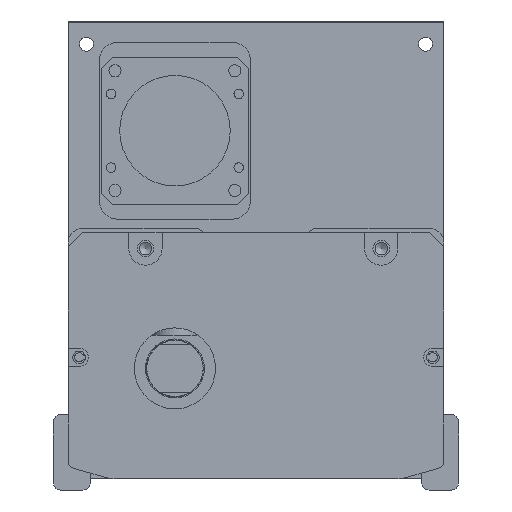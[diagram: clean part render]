
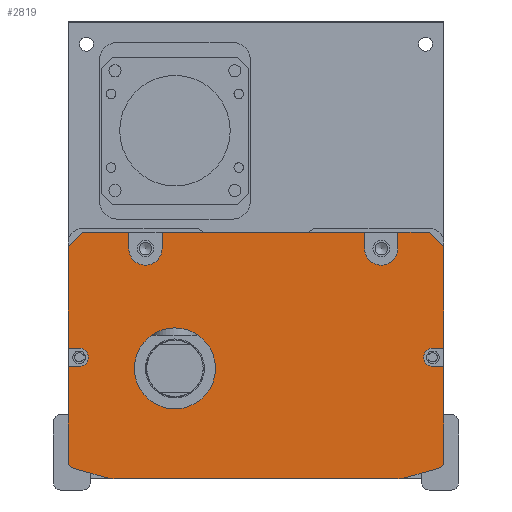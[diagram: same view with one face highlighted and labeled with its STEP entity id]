
A CAD part, front view. The second image highlights one B-rep face of the part: STEP entity #2819.
In plain terms, the highlighted planar face has unit normal (0, -1, 0).
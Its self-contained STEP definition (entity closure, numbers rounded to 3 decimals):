
#943=LINE('',#17841,#1705);
#944=LINE('',#17844,#1706);
#945=LINE('',#17846,#1707);
#946=LINE('',#17848,#1708);
#947=LINE('',#17852,#1709);
#948=LINE('',#17854,#1710);
#949=LINE('',#17856,#1711);
#950=LINE('',#17860,#1712);
#951=LINE('',#17862,#1713);
#952=LINE('',#17864,#1714);
#953=LINE('',#17866,#1715);
#954=LINE('',#17868,#1716);
#955=LINE('',#17872,#1717);
#956=LINE('',#17874,#1718);
#957=LINE('',#17878,#1719);
#958=LINE('',#17882,#1720);
#959=LINE('',#17886,#1721);
#960=LINE('',#17890,#1722);
#961=LINE('',#17892,#1723);
#962=LINE('',#17896,#1724);
#1705=VECTOR('',#14125,1.);
#1706=VECTOR('',#14126,1.);
#1707=VECTOR('',#14127,1.);
#1708=VECTOR('',#14128,1.);
#1709=VECTOR('',#14131,1.);
#1710=VECTOR('',#14132,1.);
#1711=VECTOR('',#14133,1.);
#1712=VECTOR('',#14136,1.);
#1713=VECTOR('',#14137,1.);
#1714=VECTOR('',#14138,1.);
#1715=VECTOR('',#14139,1.);
#1716=VECTOR('',#14140,1.);
#1717=VECTOR('',#14143,1.);
#1718=VECTOR('',#14144,1.);
#1719=VECTOR('',#14147,1.);
#1720=VECTOR('',#14150,1.);
#1721=VECTOR('',#14153,1.);
#1722=VECTOR('',#14156,1.);
#1723=VECTOR('',#14157,1.);
#1724=VECTOR('',#14160,1.);
#2819=ADVANCED_FACE('',(#3860,#3861),#3566,.F.);
#3566=PLANE('',#12520);
#3860=FACE_BOUND('',#4444,.T.);
#3861=FACE_BOUND('',#4445,.T.);
#4444=EDGE_LOOP('',(#5633,#5634,#5635,#5636,#5637,#5638,#5639,#5640,#5641,
#5642,#5643,#5644,#5645,#5646,#5647,#5648,#5649,#5650,#5651,#5652,#5653,
#5654,#5655,#5656,#5657,#5658,#5659,#5660));
#4445=EDGE_LOOP('',(#5661));
#5633=ORIENTED_EDGE('',*,*,#10188,.T.);
#5634=ORIENTED_EDGE('',*,*,#10189,.T.);
#5635=ORIENTED_EDGE('',*,*,#10190,.T.);
#5636=ORIENTED_EDGE('',*,*,#10191,.F.);
#5637=ORIENTED_EDGE('',*,*,#10192,.T.);
#5638=ORIENTED_EDGE('',*,*,#10193,.F.);
#5639=ORIENTED_EDGE('',*,*,#10194,.T.);
#5640=ORIENTED_EDGE('',*,*,#10195,.F.);
#5641=ORIENTED_EDGE('',*,*,#10196,.T.);
#5642=ORIENTED_EDGE('',*,*,#10197,.F.);
#5643=ORIENTED_EDGE('',*,*,#10198,.T.);
#5644=ORIENTED_EDGE('',*,*,#10199,.T.);
#5645=ORIENTED_EDGE('',*,*,#10200,.T.);
#5646=ORIENTED_EDGE('',*,*,#10201,.T.);
#5647=ORIENTED_EDGE('',*,*,#10202,.T.);
#5648=ORIENTED_EDGE('',*,*,#10203,.T.);
#5649=ORIENTED_EDGE('',*,*,#10204,.T.);
#5650=ORIENTED_EDGE('',*,*,#10205,.T.);
#5651=ORIENTED_EDGE('',*,*,#10206,.T.);
#5652=ORIENTED_EDGE('',*,*,#10207,.T.);
#5653=ORIENTED_EDGE('',*,*,#10208,.T.);
#5654=ORIENTED_EDGE('',*,*,#10209,.T.);
#5655=ORIENTED_EDGE('',*,*,#10210,.T.);
#5656=ORIENTED_EDGE('',*,*,#10211,.T.);
#5657=ORIENTED_EDGE('',*,*,#10212,.T.);
#5658=ORIENTED_EDGE('',*,*,#10213,.T.);
#5659=ORIENTED_EDGE('',*,*,#10214,.T.);
#5660=ORIENTED_EDGE('',*,*,#10215,.T.);
#5661=ORIENTED_EDGE('',*,*,#10216,.T.);
#8998=VERTEX_POINT('',#17842);
#8999=VERTEX_POINT('',#17843);
#9000=VERTEX_POINT('',#17845);
#9001=VERTEX_POINT('',#17847);
#9002=VERTEX_POINT('',#17849);
#9003=VERTEX_POINT('',#17851);
#9004=VERTEX_POINT('',#17853);
#9005=VERTEX_POINT('',#17855);
#9006=VERTEX_POINT('',#17857);
#9007=VERTEX_POINT('',#17859);
#9008=VERTEX_POINT('',#17861);
#9009=VERTEX_POINT('',#17863);
#9010=VERTEX_POINT('',#17865);
#9011=VERTEX_POINT('',#17867);
#9012=VERTEX_POINT('',#17869);
#9013=VERTEX_POINT('',#17871);
#9014=VERTEX_POINT('',#17873);
#9015=VERTEX_POINT('',#17875);
#9016=VERTEX_POINT('',#17877);
#9017=VERTEX_POINT('',#17879);
#9018=VERTEX_POINT('',#17881);
#9019=VERTEX_POINT('',#17883);
#9020=VERTEX_POINT('',#17885);
#9021=VERTEX_POINT('',#17887);
#9022=VERTEX_POINT('',#17889);
#9023=VERTEX_POINT('',#17891);
#9024=VERTEX_POINT('',#17893);
#9025=VERTEX_POINT('',#17895);
#9026=VERTEX_POINT('',#17898);
#10188=EDGE_CURVE('',#8998,#8999,#943,.T.);
#10189=EDGE_CURVE('',#8999,#9000,#944,.T.);
#10190=EDGE_CURVE('',#9000,#9001,#945,.T.);
#10191=EDGE_CURVE('',#9002,#9001,#946,.T.);
#10192=EDGE_CURVE('',#9002,#9003,#11788,.T.);
#10193=EDGE_CURVE('',#9004,#9003,#947,.T.);
#10194=EDGE_CURVE('',#9004,#9005,#948,.T.);
#10195=EDGE_CURVE('',#9006,#9005,#949,.T.);
#10196=EDGE_CURVE('',#9006,#9007,#11789,.T.);
#10197=EDGE_CURVE('',#9008,#9007,#950,.T.);
#10198=EDGE_CURVE('',#9008,#9009,#951,.T.);
#10199=EDGE_CURVE('',#9009,#9010,#952,.T.);
#10200=EDGE_CURVE('',#9010,#9011,#953,.T.);
#10201=EDGE_CURVE('',#9011,#9012,#954,.T.);
#10202=EDGE_CURVE('',#9012,#9013,#11790,.T.);
#10203=EDGE_CURVE('',#9013,#9014,#955,.T.);
#10204=EDGE_CURVE('',#9014,#9015,#956,.T.);
#10205=EDGE_CURVE('',#9015,#9016,#11791,.T.);
#10206=EDGE_CURVE('',#9016,#9017,#957,.T.);
#10207=EDGE_CURVE('',#9017,#9018,#11792,.T.);
#10208=EDGE_CURVE('',#9018,#9019,#958,.T.);
#10209=EDGE_CURVE('',#9019,#9020,#11793,.T.);
#10210=EDGE_CURVE('',#9020,#9021,#959,.T.);
#10211=EDGE_CURVE('',#9021,#9022,#11794,.T.);
#10212=EDGE_CURVE('',#9022,#9023,#960,.T.);
#10213=EDGE_CURVE('',#9023,#9024,#961,.T.);
#10214=EDGE_CURVE('',#9024,#9025,#11795,.T.);
#10215=EDGE_CURVE('',#9025,#8998,#962,.T.);
#10216=EDGE_CURVE('',#9026,#9026,#11796,.T.);
#11788=CIRCLE('',#12511,4.5);
#11789=CIRCLE('',#12512,4.5);
#11790=CIRCLE('',#12513,2.5);
#11791=CIRCLE('',#12514,2.);
#11792=CIRCLE('',#12515,10.);
#11793=CIRCLE('',#12516,10.);
#11794=CIRCLE('',#12517,2.);
#11795=CIRCLE('',#12518,2.5);
#11796=CIRCLE('',#12519,11.);
#12511=AXIS2_PLACEMENT_3D('',#17850,#14129,#14130);
#12512=AXIS2_PLACEMENT_3D('',#17858,#14134,#14135);
#12513=AXIS2_PLACEMENT_3D('',#17870,#14141,#14142);
#12514=AXIS2_PLACEMENT_3D('',#17876,#14145,#14146);
#12515=AXIS2_PLACEMENT_3D('',#17880,#14148,#14149);
#12516=AXIS2_PLACEMENT_3D('',#17884,#14151,#14152);
#12517=AXIS2_PLACEMENT_3D('',#17888,#14154,#14155);
#12518=AXIS2_PLACEMENT_3D('',#17894,#14158,#14159);
#12519=AXIS2_PLACEMENT_3D('',#17897,#14161,#14162);
#12520=AXIS2_PLACEMENT_3D('',#17899,#14163,#14164);
#14125=DIRECTION('',(0.,0.,1.));
#14126=DIRECTION('',(-0.707,0.,0.707));
#14127=DIRECTION('',(-1.,0.,0.));
#14128=DIRECTION('',(0.,0.,1.));
#14129=DIRECTION('',(0.,1.,0.));
#14130=DIRECTION('',(0.,0.,1.));
#14131=DIRECTION('',(0.,0.,-1.));
#14132=DIRECTION('',(-1.,0.,0.));
#14133=DIRECTION('',(0.,0.,1.));
#14134=DIRECTION('',(0.,1.,0.));
#14135=DIRECTION('',(0.,0.,1.));
#14136=DIRECTION('',(0.,0.,-1.));
#14137=DIRECTION('',(-1.,0.,0.));
#14138=DIRECTION('',(-0.707,0.,-0.707));
#14139=DIRECTION('',(0.,0.,-1.));
#14140=DIRECTION('',(1.,0.,0.));
#14141=DIRECTION('',(0.,1.,0.));
#14142=DIRECTION('',(0.,0.,1.));
#14143=DIRECTION('',(-1.,0.,0.));
#14144=DIRECTION('',(0.,0.,-1.));
#14145=DIRECTION('',(0.,-1.,0.));
#14146=DIRECTION('',(0.,0.,1.));
#14147=DIRECTION('',(0.963,0.,-0.269));
#14148=DIRECTION('',(0.,-1.,0.));
#14149=DIRECTION('',(0.,0.,1.));
#14150=DIRECTION('',(1.,0.,0.));
#14151=DIRECTION('',(0.,-1.,0.));
#14152=DIRECTION('',(0.,0.,-1.));
#14153=DIRECTION('',(0.963,0.,0.269));
#14154=DIRECTION('',(0.,-1.,0.));
#14155=DIRECTION('',(0.,0.,-1.));
#14156=DIRECTION('',(0.,0.,1.));
#14157=DIRECTION('',(-1.,0.,0.));
#14158=DIRECTION('',(0.,1.,0.));
#14159=DIRECTION('',(0.,0.,1.));
#14160=DIRECTION('',(1.,0.,0.));
#14161=DIRECTION('',(0.,1.,0.));
#14162=DIRECTION('',(0.,0.,1.));
#14163=DIRECTION('',(0.,1.,0.));
#14164=DIRECTION('',(-1.,0.,0.));
#17841=CARTESIAN_POINT('',(47.808,82.5,-1.));
#17842=CARTESIAN_POINT('',(47.808,82.5,-32.5));
#17843=CARTESIAN_POINT('',(47.808,82.5,-5.));
#17844=CARTESIAN_POINT('',(43.808,82.5,-1.));
#17845=CARTESIAN_POINT('',(43.808,82.5,-1.));
#17846=CARTESIAN_POINT('',(-3.192,82.5,-1.));
#17847=CARTESIAN_POINT('',(35.308,82.5,-1.));
#17848=CARTESIAN_POINT('',(35.308,82.5,-1.));
#17849=CARTESIAN_POINT('',(35.308,82.5,-5.5));
#17850=CARTESIAN_POINT('',(30.808,82.5,-5.5));
#17851=CARTESIAN_POINT('',(26.308,82.5,-5.5));
#17852=CARTESIAN_POINT('',(26.308,82.5,-1.));
#17853=CARTESIAN_POINT('',(26.308,82.5,-1.));
#17854=CARTESIAN_POINT('',(-54.192,82.5,-1.));
#17855=CARTESIAN_POINT('',(-28.692,82.5,-1.));
#17856=CARTESIAN_POINT('',(-28.692,82.5,-3.5));
#17857=CARTESIAN_POINT('',(-28.692,82.5,-5.5));
#17858=CARTESIAN_POINT('',(-33.192,82.5,-5.5));
#17859=CARTESIAN_POINT('',(-37.692,82.5,-5.5));
#17860=CARTESIAN_POINT('',(-37.692,82.5,-1.));
#17861=CARTESIAN_POINT('',(-37.692,82.5,-1.));
#17862=CARTESIAN_POINT('',(-54.192,82.5,-1.));
#17863=CARTESIAN_POINT('',(-50.192,82.5,-1.));
#17864=CARTESIAN_POINT('',(-54.192,82.5,-5.));
#17865=CARTESIAN_POINT('',(-54.192,82.5,-5.));
#17866=CARTESIAN_POINT('',(-54.192,82.5,-62.));
#17867=CARTESIAN_POINT('',(-54.192,82.5,-32.5));
#17868=CARTESIAN_POINT('',(-3.192,82.5,-32.5));
#17869=CARTESIAN_POINT('',(-51.192,82.5,-32.5));
#17870=CARTESIAN_POINT('',(-51.192,82.5,-35.));
#17871=CARTESIAN_POINT('',(-51.192,82.5,-37.5));
#17872=CARTESIAN_POINT('',(-3.192,82.5,-37.5));
#17873=CARTESIAN_POINT('',(-54.192,82.5,-37.5));
#17874=CARTESIAN_POINT('',(-54.192,82.5,-62.));
#17875=CARTESIAN_POINT('',(-54.192,82.5,-63.212));
#17876=CARTESIAN_POINT('',(-52.192,82.5,-63.212));
#17877=CARTESIAN_POINT('',(-52.731,82.5,-65.138));
#17878=CARTESIAN_POINT('',(-55.807,82.5,-64.279));
#17879=CARTESIAN_POINT('',(-43.809,82.5,-67.631));
#17880=CARTESIAN_POINT('',(-41.118,82.5,-58.));
#17881=CARTESIAN_POINT('',(-41.118,82.5,-68.));
#17882=CARTESIAN_POINT('',(-54.692,82.5,-68.));
#17883=CARTESIAN_POINT('',(34.733,82.5,-68.));
#17884=CARTESIAN_POINT('',(34.733,82.5,-58.));
#17885=CARTESIAN_POINT('',(37.424,82.5,-67.631));
#17886=CARTESIAN_POINT('',(49.422,82.5,-64.279));
#17887=CARTESIAN_POINT('',(46.346,82.5,-65.138));
#17888=CARTESIAN_POINT('',(45.808,82.5,-63.212));
#17889=CARTESIAN_POINT('',(47.808,82.5,-63.212));
#17890=CARTESIAN_POINT('',(47.808,82.5,-1.));
#17891=CARTESIAN_POINT('',(47.808,82.5,-37.5));
#17892=CARTESIAN_POINT('',(-3.192,82.5,-37.5));
#17893=CARTESIAN_POINT('',(44.808,82.5,-37.5));
#17894=CARTESIAN_POINT('',(44.808,82.5,-35.));
#17895=CARTESIAN_POINT('',(44.808,82.5,-32.5));
#17896=CARTESIAN_POINT('',(-3.192,82.5,-32.5));
#17897=CARTESIAN_POINT('',(-25.192,82.5,-38.));
#17898=CARTESIAN_POINT('',(-25.192,82.5,-27.));
#17899=CARTESIAN_POINT('',(-3.192,82.5,-1.));
